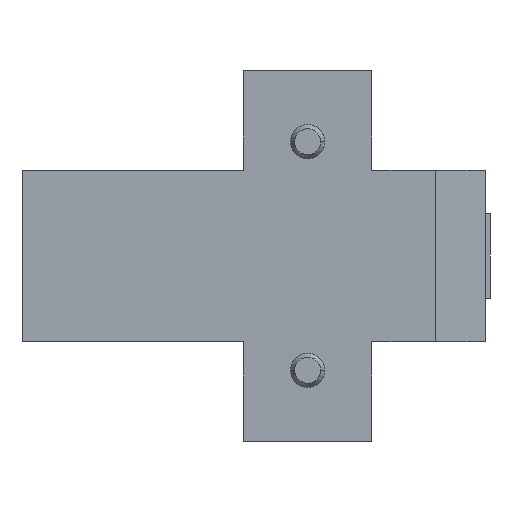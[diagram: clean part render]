
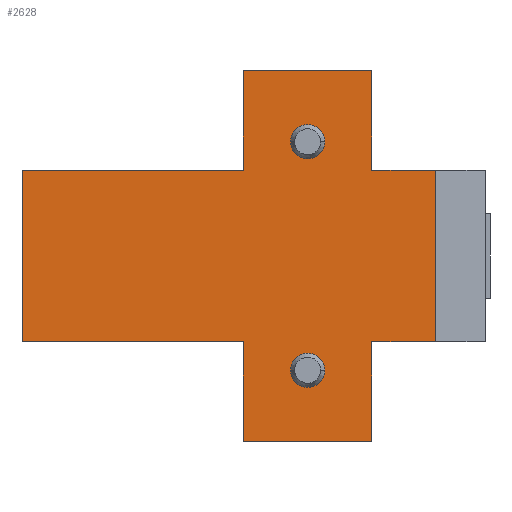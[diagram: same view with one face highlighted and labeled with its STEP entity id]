
A CAD part, left-side view. The second image highlights one B-rep face of the part: STEP entity #2628.
In plain terms, the highlighted planar face has unit normal (-1, 0, 0).
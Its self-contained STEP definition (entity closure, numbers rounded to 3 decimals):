
#5 = EDGE_CURVE ( 'NONE', #3275, #3268, #3222, .T. ) ;
#6 = EDGE_CURVE ( 'NONE', #3275, #3270, #2819, .T. ) ;
#7 = EDGE_CURVE ( 'NONE', #3267, #3268, #2752, .T. ) ;
#8 = EDGE_CURVE ( 'NONE', #3284, #3288, #285, .T. ) ;
#43 = VECTOR ( 'NONE', #2354, 1000. ) ;
#65 = CIRCLE ( 'NONE', #188, 2.4 ) ;
#72 = VECTOR ( 'NONE', #2366, 1000. ) ;
#100 = VECTOR ( 'NONE', #2346, 1000. ) ;
#166 = VECTOR ( 'NONE', #2348, 1000. ) ;
#169 = AXIS2_PLACEMENT_3D ( 'NONE', #1647, #2745, #2744 ) ;
#181 = VECTOR ( 'NONE', #2363, 1000. ) ;
#188 = AXIS2_PLACEMENT_3D ( 'NONE', #796, #797, #798 ) ;
#253 = VECTOR ( 'NONE', #2359, 1000. ) ;
#256 = VECTOR ( 'NONE', #2750, 1000. ) ;
#282 = AXIS2_PLACEMENT_3D ( 'NONE', #2372, #2371, #2370 ) ;
#285 = CIRCLE ( 'NONE', #169, 2.4 ) ;
#319 = VECTOR ( 'NONE', #2356, 1000. ) ;
#342 = AXIS2_PLACEMENT_3D ( 'NONE', #1154, #1150, #1158 ) ;
#347 = VECTOR ( 'NONE', #2350, 1000. ) ;
#382 = VECTOR ( 'NONE', #2746, 1000. ) ;
#419 = VECTOR ( 'NONE', #2369, 1000. ) ;
#425 = CIRCLE ( 'NONE', #451, 2.4 ) ;
#438 = CIRCLE ( 'NONE', #282, 2.4 ) ;
#451 = AXIS2_PLACEMENT_3D ( 'NONE', #730, #731, #732 ) ;
#506 = VECTOR ( 'NONE', #2748, 1000. ) ;
#730 = CARTESIAN_POINT ( 'NONE',  ( 0., 0., -16. ) ) ;
#731 = DIRECTION ( 'NONE',  ( -1., 0., 0. ) ) ;
#732 = DIRECTION ( 'NONE',  ( 0., 0., -1. ) ) ;
#796 = CARTESIAN_POINT ( 'NONE',  ( 0., 0., 16. ) ) ;
#797 = DIRECTION ( 'NONE',  ( -1., 0., 0. ) ) ;
#798 = DIRECTION ( 'NONE',  ( 0., 0., -1. ) ) ;
#1148 = FACE_OUTER_BOUND ( 'NONE', #2874, .T. ) ;
#1150 = DIRECTION ( 'NONE',  ( 1., 0., 0. ) ) ;
#1153 = FACE_BOUND ( 'NONE', #2838, .T. ) ;
#1154 = CARTESIAN_POINT ( 'NONE',  ( 0., -12.007, -12. ) ) ;
#1156 = FACE_BOUND ( 'NONE', #2846, .T. ) ;
#1157 = PLANE ( 'NONE',  #342 ) ;
#1158 = DIRECTION ( 'NONE',  ( 0., 0., -1. ) ) ;
#1637 = EDGE_CURVE ( 'NONE', #3407, #3246, #438, .T. ) ;
#1638 = EDGE_CURVE ( 'NONE', #3262, #3270, #2373, .T. ) ;
#1639 = EDGE_CURVE ( 'NONE', #3261, #3262, #2368, .T. ) ;
#1640 = EDGE_CURVE ( 'NONE', #3243, #3261, #2365, .T. ) ;
#1641 = EDGE_CURVE ( 'NONE', #3243, #3266, #2362, .T. ) ;
#1642 = EDGE_CURVE ( 'NONE', #3266, #3294, #2374, .T. ) ;
#1643 = EDGE_CURVE ( 'NONE', #3278, #3294, #2375, .T. ) ;
#1644 = EDGE_CURVE ( 'NONE', #3278, #3273, #2353, .T. ) ;
#1645 = EDGE_CURVE ( 'NONE', #3273, #3271, #2361, .T. ) ;
#1646 = EDGE_CURVE ( 'NONE', #3271, #3267, #2357, .T. ) ;
#1647 = CARTESIAN_POINT ( 'NONE',  ( 0., 0., -16. ) ) ;
#1864 = CARTESIAN_POINT ( 'NONE',  ( 0., -17.9, 12. ) ) ;
#1867 = CARTESIAN_POINT ( 'NONE',  ( 0., 2.4, 16. ) ) ;
#1882 = CARTESIAN_POINT ( 'NONE',  ( 0., -9., 12. ) ) ;
#1883 = CARTESIAN_POINT ( 'NONE',  ( 0., -9., 26. ) ) ;
#1887 = CARTESIAN_POINT ( 'NONE',  ( 0., -17.9, -12. ) ) ;
#1888 = CARTESIAN_POINT ( 'NONE',  ( 0., 40., -12. ) ) ;
#1889 = CARTESIAN_POINT ( 'NONE',  ( 0., 40., 12. ) ) ;
#1891 = CARTESIAN_POINT ( 'NONE',  ( 0., 9., 26. ) ) ;
#1892 = CARTESIAN_POINT ( 'NONE',  ( 0., 9., -12. ) ) ;
#1894 = CARTESIAN_POINT ( 'NONE',  ( 0., 9., -26. ) ) ;
#1896 = CARTESIAN_POINT ( 'NONE',  ( 0., 9., 12. ) ) ;
#1899 = CARTESIAN_POINT ( 'NONE',  ( 0., -9., -26. ) ) ;
#1905 = CARTESIAN_POINT ( 'NONE',  ( 0., -2.4, -16. ) ) ;
#1909 = CARTESIAN_POINT ( 'NONE',  ( 0., 2.4, -16. ) ) ;
#1915 = CARTESIAN_POINT ( 'NONE',  ( 0., -9., -12. ) ) ;
#2028 = CARTESIAN_POINT ( 'NONE',  ( 0., -2.4, 16. ) ) ;
#2346 = DIRECTION ( 'NONE',  ( 0., 1., 0. ) ) ;
#2347 = CARTESIAN_POINT ( 'NONE',  ( 0., -12.007, -12. ) ) ;
#2348 = DIRECTION ( 'NONE',  ( 0., 0., 1. ) ) ;
#2349 = CARTESIAN_POINT ( 'NONE',  ( 0., 9., -26. ) ) ;
#2350 = DIRECTION ( 'NONE',  ( 0., 1., 0. ) ) ;
#2351 = CARTESIAN_POINT ( 'NONE',  ( 0., -9., -26. ) ) ;
#2353 = LINE ( 'NONE', #2351, #347 ) ;
#2354 = DIRECTION ( 'NONE',  ( 0., 0., 1. ) ) ;
#2355 = CARTESIAN_POINT ( 'NONE',  ( 0., -9., -26. ) ) ;
#2356 = DIRECTION ( 'NONE',  ( 0., 1., 0. ) ) ;
#2357 = LINE ( 'NONE', #2347, #100 ) ;
#2358 = CARTESIAN_POINT ( 'NONE',  ( 0., -12.007, -12. ) ) ;
#2359 = DIRECTION ( 'NONE',  ( 0., 0., -1. ) ) ;
#2360 = CARTESIAN_POINT ( 'NONE',  ( 0., -17.9, 30.452 ) ) ;
#2361 = LINE ( 'NONE', #2349, #166 ) ;
#2362 = LINE ( 'NONE', #2360, #253 ) ;
#2363 = DIRECTION ( 'NONE',  ( 0., 1., 0. ) ) ;
#2364 = CARTESIAN_POINT ( 'NONE',  ( 0., -12.007, 12. ) ) ;
#2365 = LINE ( 'NONE', #2364, #181 ) ;
#2366 = DIRECTION ( 'NONE',  ( 0., 0., 1. ) ) ;
#2367 = CARTESIAN_POINT ( 'NONE',  ( 0., -9., -26. ) ) ;
#2368 = LINE ( 'NONE', #2367, #72 ) ;
#2369 = DIRECTION ( 'NONE',  ( 0., 1., 0. ) ) ;
#2370 = DIRECTION ( 'NONE',  ( 0., 0., -1. ) ) ;
#2371 = DIRECTION ( 'NONE',  ( -1., 0., 0. ) ) ;
#2372 = CARTESIAN_POINT ( 'NONE',  ( 0., 0., 16. ) ) ;
#2373 = LINE ( 'NONE', #2377, #419 ) ;
#2374 = LINE ( 'NONE', #2358, #319 ) ;
#2375 = LINE ( 'NONE', #2355, #43 ) ;
#2377 = CARTESIAN_POINT ( 'NONE',  ( 0., -9., 26. ) ) ;
#2397 = EDGE_CURVE ( 'NONE', #3288, #3284, #425, .T. ) ;
#2418 = EDGE_CURVE ( 'NONE', #3246, #3407, #65, .T. ) ;
#2628 = ADVANCED_FACE ( 'NONE', ( #1153, #1148, #1156 ), #1157, .F. ) ;
#2744 = DIRECTION ( 'NONE',  ( 0., 0., -1. ) ) ;
#2745 = DIRECTION ( 'NONE',  ( -1., 0., 0. ) ) ;
#2746 = DIRECTION ( 'NONE',  ( 0., 0., 1. ) ) ;
#2747 = CARTESIAN_POINT ( 'NONE',  ( 0., 40., -12. ) ) ;
#2748 = DIRECTION ( 'NONE',  ( 0., 0., 1. ) ) ;
#2749 = CARTESIAN_POINT ( 'NONE',  ( 0., 9., -26. ) ) ;
#2750 = DIRECTION ( 'NONE',  ( 0., 1., 0. ) ) ;
#2751 = CARTESIAN_POINT ( 'NONE',  ( 0., -12.007, 12. ) ) ;
#2752 = LINE ( 'NONE', #2747, #382 ) ;
#2819 = LINE ( 'NONE', #2749, #506 ) ;
#2838 = EDGE_LOOP ( 'NONE', ( #3554, #3555 ) ) ;
#2846 = EDGE_LOOP ( 'NONE', ( #3568, #3569 ) ) ;
#2874 = EDGE_LOOP ( 'NONE', ( #3556, #3557, #3558, #3559, #3560, #3561, #3562, #3563, #3564, #3565, #3566, #3567 ) ) ;
#3222 = LINE ( 'NONE', #2751, #256 ) ;
#3243 = VERTEX_POINT ( 'NONE', #1864 ) ;
#3246 = VERTEX_POINT ( 'NONE', #1867 ) ;
#3261 = VERTEX_POINT ( 'NONE', #1882 ) ;
#3262 = VERTEX_POINT ( 'NONE', #1883 ) ;
#3266 = VERTEX_POINT ( 'NONE', #1887 ) ;
#3267 = VERTEX_POINT ( 'NONE', #1888 ) ;
#3268 = VERTEX_POINT ( 'NONE', #1889 ) ;
#3270 = VERTEX_POINT ( 'NONE', #1891 ) ;
#3271 = VERTEX_POINT ( 'NONE', #1892 ) ;
#3273 = VERTEX_POINT ( 'NONE', #1894 ) ;
#3275 = VERTEX_POINT ( 'NONE', #1896 ) ;
#3278 = VERTEX_POINT ( 'NONE', #1899 ) ;
#3284 = VERTEX_POINT ( 'NONE', #1905 ) ;
#3288 = VERTEX_POINT ( 'NONE', #1909 ) ;
#3294 = VERTEX_POINT ( 'NONE', #1915 ) ;
#3407 = VERTEX_POINT ( 'NONE', #2028 ) ;
#3554 = ORIENTED_EDGE ( 'NONE', *, *, #8, .F. ) ;
#3555 = ORIENTED_EDGE ( 'NONE', *, *, #2397, .F. ) ;
#3556 = ORIENTED_EDGE ( 'NONE', *, *, #6, .F. ) ;
#3557 = ORIENTED_EDGE ( 'NONE', *, *, #5, .T. ) ;
#3558 = ORIENTED_EDGE ( 'NONE', *, *, #7, .F. ) ;
#3559 = ORIENTED_EDGE ( 'NONE', *, *, #1646, .F. ) ;
#3560 = ORIENTED_EDGE ( 'NONE', *, *, #1645, .F. ) ;
#3561 = ORIENTED_EDGE ( 'NONE', *, *, #1644, .F. ) ;
#3562 = ORIENTED_EDGE ( 'NONE', *, *, #1643, .T. ) ;
#3563 = ORIENTED_EDGE ( 'NONE', *, *, #1642, .F. ) ;
#3564 = ORIENTED_EDGE ( 'NONE', *, *, #1641, .F. ) ;
#3565 = ORIENTED_EDGE ( 'NONE', *, *, #1640, .T. ) ;
#3566 = ORIENTED_EDGE ( 'NONE', *, *, #1639, .T. ) ;
#3567 = ORIENTED_EDGE ( 'NONE', *, *, #1638, .T. ) ;
#3568 = ORIENTED_EDGE ( 'NONE', *, *, #1637, .F. ) ;
#3569 = ORIENTED_EDGE ( 'NONE', *, *, #2418, .F. ) ;
